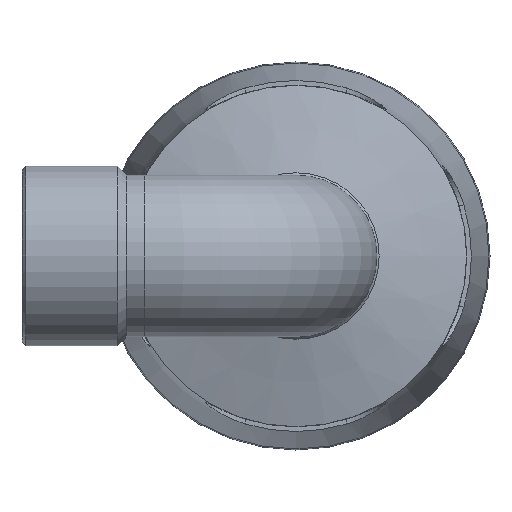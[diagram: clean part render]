
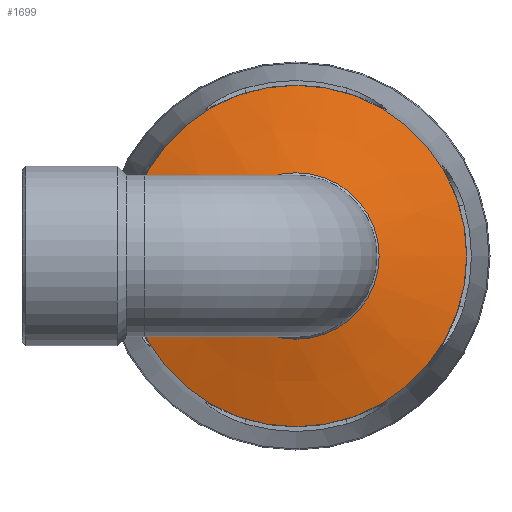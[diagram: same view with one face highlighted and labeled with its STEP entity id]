
A CAD part, left-side view. The second image highlights one B-rep face of the part: STEP entity #1699.
In plain terms, the highlighted conical face has half-angle 75 degrees and reference radius 27.56 mm.
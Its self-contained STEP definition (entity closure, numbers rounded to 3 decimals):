
#335=CONICAL_SURFACE('',#1811,27.56,75.);
#341=FACE_BOUND('',#479,.T.);
#369=FACE_OUTER_BOUND('',#478,.T.);
#478=EDGE_LOOP('',(#1107));
#479=EDGE_LOOP('',(#1108));
#613=CIRCLE('',#1810,18.224);
#614=CIRCLE('',#1812,37.4);
#708=VERTEX_POINT('',#2503);
#709=VERTEX_POINT('',#2506);
#867=EDGE_CURVE('',#708,#708,#613,.T.);
#868=EDGE_CURVE('',#709,#709,#614,.T.);
#1107=ORIENTED_EDGE('',*,*,#868,.F.);
#1108=ORIENTED_EDGE('',*,*,#867,.F.);
#1699=ADVANCED_FACE('',(#369,#341),#335,.T.);
#1810=AXIS2_PLACEMENT_3D('',#2504,#2017,#2018);
#1811=AXIS2_PLACEMENT_3D('',#2505,#2019,#2020);
#1812=AXIS2_PLACEMENT_3D('',#2507,#2021,#2022);
#2017=DIRECTION('center_axis',(-1.,0.,0.));
#2018=DIRECTION('ref_axis',(0.,-1.,0.));
#2019=DIRECTION('center_axis',(1.,0.,0.));
#2020=DIRECTION('ref_axis',(0.,-1.,0.));
#2021=DIRECTION('center_axis',(1.,0.,0.));
#2022=DIRECTION('ref_axis',(0.,0.,-1.));
#2503=CARTESIAN_POINT('',(37.072,18.224,0.));
#2504=CARTESIAN_POINT('Origin',(37.072,0.,0.));
#2505=CARTESIAN_POINT('Origin',(39.573,0.,0.));
#2506=CARTESIAN_POINT('',(42.21,37.4,0.));
#2507=CARTESIAN_POINT('Origin',(42.21,0.,0.));
